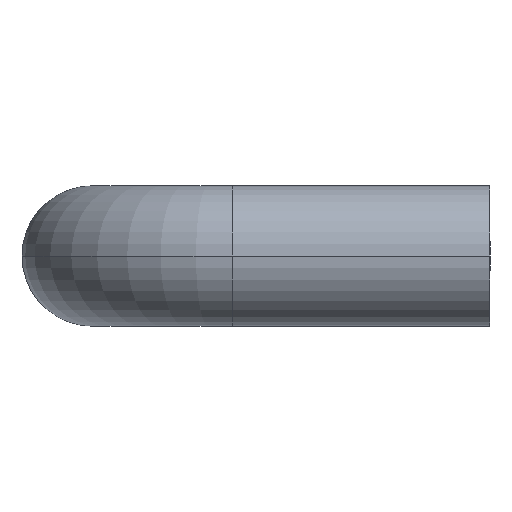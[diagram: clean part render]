
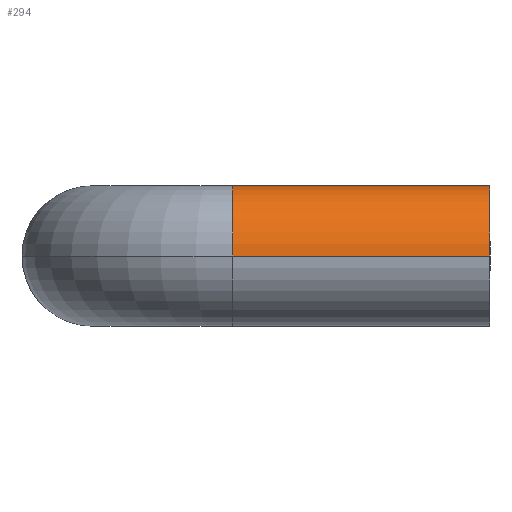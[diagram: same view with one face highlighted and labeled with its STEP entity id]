
A CAD part, left-side view. The second image highlights one B-rep face of the part: STEP entity #294.
In plain terms, the highlighted cylindrical face has radius 4.5 mm (diameter 9 mm), a partial arc.
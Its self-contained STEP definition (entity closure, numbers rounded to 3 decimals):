
#14 = EDGE_CURVE ( 'NONE', #350, #348, #431, .T. ) ;
#15 = EDGE_CURVE ( 'NONE', #350, #337, #436, .T. ) ;
#16 = EDGE_CURVE ( 'NONE', #337, #333, #434, .T. ) ;
#17 = EDGE_CURVE ( 'NONE', #348, #333, #439, .T. ) ;
#40 = AXIS2_PLACEMENT_3D ( 'NONE', #135, #122, #153 ) ;
#41 = AXIS2_PLACEMENT_3D ( 'NONE', #107, #155, #121 ) ;
#64 = AXIS2_PLACEMENT_3D ( 'NONE', #214, #215, #213 ) ;
#102 = CARTESIAN_POINT ( 'NONE',  ( -54.5, -9., 0. ) ) ;
#104 = CARTESIAN_POINT ( 'NONE',  ( -45.5, -9., 0. ) ) ;
#107 = CARTESIAN_POINT ( 'NONE',  ( -50., -25.5, 0. ) ) ;
#117 = DIRECTION ( 'NONE',  ( 0., -1., 0. ) ) ;
#119 = DIRECTION ( 'NONE',  ( 0., -1., 0. ) ) ;
#121 = DIRECTION ( 'NONE',  ( -1., 0., 0. ) ) ;
#122 = DIRECTION ( 'NONE',  ( 0., 1., 0. ) ) ;
#135 = CARTESIAN_POINT ( 'NONE',  ( -50., -9., 0. ) ) ;
#153 = DIRECTION ( 'NONE',  ( -1., 0., 0. ) ) ;
#155 = DIRECTION ( 'NONE',  ( 0., 1., 0. ) ) ;
#213 = DIRECTION ( 'NONE',  ( 1., 0., 0. ) ) ;
#214 = CARTESIAN_POINT ( 'NONE',  ( -50., -9., 0. ) ) ;
#215 = DIRECTION ( 'NONE',  ( 0., -1., 0. ) ) ;
#266 = CARTESIAN_POINT ( 'NONE',  ( -45.5, -25.5, 0. ) ) ;
#268 = CARTESIAN_POINT ( 'NONE',  ( -54.5, -25.5, 0. ) ) ;
#278 = CARTESIAN_POINT ( 'NONE',  ( -45.5, -9., 0. ) ) ;
#280 = CARTESIAN_POINT ( 'NONE',  ( -54.5, -9., 0. ) ) ;
#294 = ADVANCED_FACE ( 'NONE', ( #475 ), #480, .T. ) ;
#327 = EDGE_LOOP ( 'NONE', ( #368, #352, #369, #370 ) ) ;
#333 = VERTEX_POINT ( 'NONE', #266 ) ;
#337 = VERTEX_POINT ( 'NONE', #268 ) ;
#348 = VERTEX_POINT ( 'NONE', #278 ) ;
#350 = VERTEX_POINT ( 'NONE', #280 ) ;
#352 = ORIENTED_EDGE ( 'NONE', *, *, #15, .T. ) ;
#368 = ORIENTED_EDGE ( 'NONE', *, *, #14, .F. ) ;
#369 = ORIENTED_EDGE ( 'NONE', *, *, #16, .T. ) ;
#370 = ORIENTED_EDGE ( 'NONE', *, *, #17, .F. ) ;
#431 = CIRCLE ( 'NONE', #40, 4.5 ) ;
#434 = CIRCLE ( 'NONE', #41, 4.5 ) ;
#436 = LINE ( 'NONE', #102, #438 ) ;
#438 = VECTOR ( 'NONE', #119, 1000. ) ;
#439 = LINE ( 'NONE', #104, #441 ) ;
#441 = VECTOR ( 'NONE', #117, 1000. ) ;
#475 = FACE_OUTER_BOUND ( 'NONE', #327, .T. ) ;
#480 = CYLINDRICAL_SURFACE ( 'NONE', #64, 4.5 ) ;
